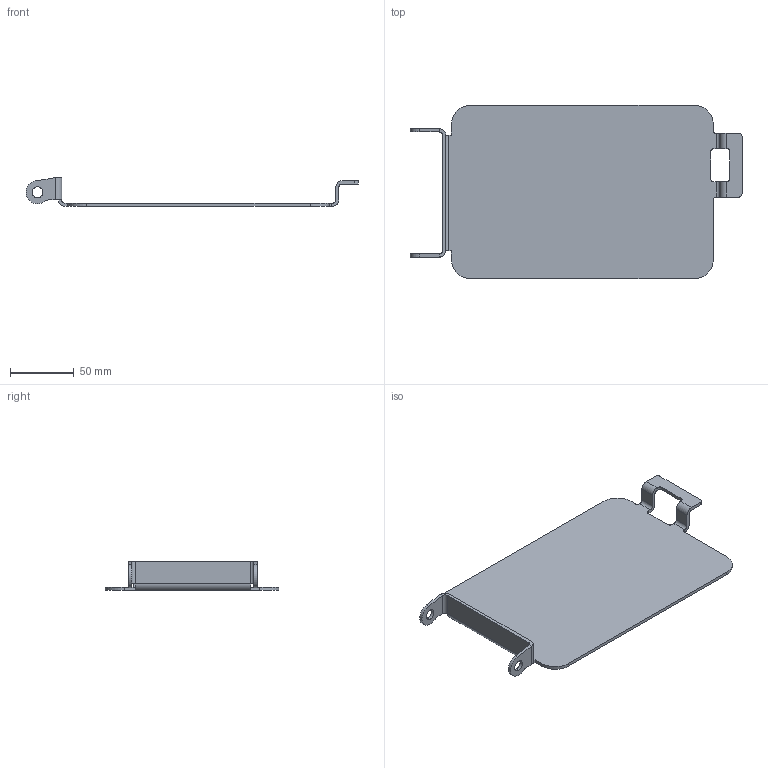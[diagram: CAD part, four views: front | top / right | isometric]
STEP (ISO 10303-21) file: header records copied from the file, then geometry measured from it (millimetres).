
FILE_DESCRIPTION((''),'2;1');
FILE_NAME('288082','2022-12-06T06:48:22',('vmorco'),(''),'CREO PARAMETRIC BY PTC INC, 2020454','CREO PARAMETRIC BY PTC INC, 2020454','');
FILE_SCHEMA(('AUTOMOTIVE_DESIGN { 1 0 10303 214 1 1 1 1 }'));
Length unit declared in the file: millimetre
Products named in the file (1): 288082
Bounding box: 260 x 136 x 22.5 mm (x, y, z)
Volume: 79749 mm3; surface area: 66397.4 mm2
Topology: 1 solids, 1 shells, 68 faces, 192 edges, 124 vertices
Faces by surface type: plane 34, cylinder 34
Entity records: 2291 total; most frequent: DIRECTION 396, CARTESIAN_POINT 386, ORIENTED_EDGE 384, EDGE_CURVE 192, AXIS2_PLACEMENT_3D 136, VECTOR 124, LINE 124, VERTEX_POINT 124
